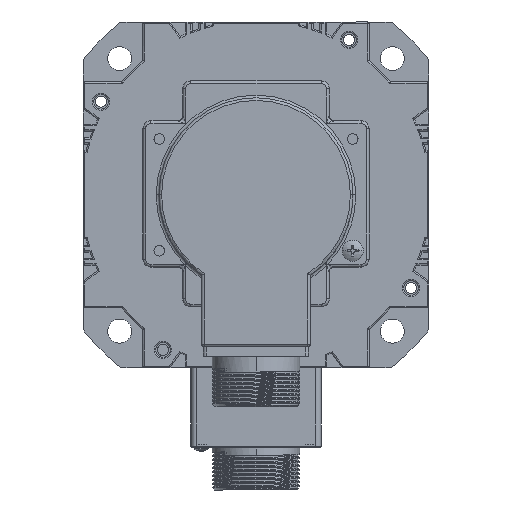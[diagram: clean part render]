
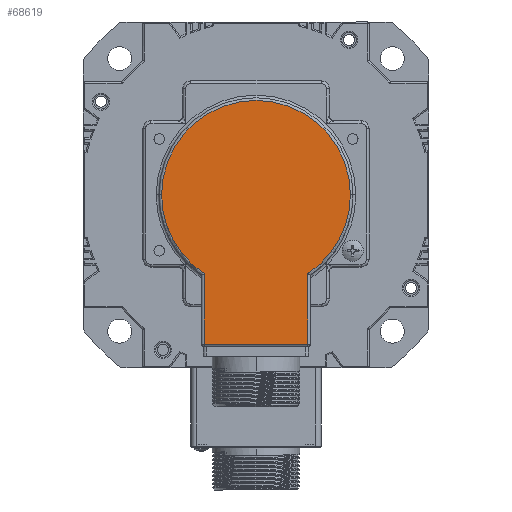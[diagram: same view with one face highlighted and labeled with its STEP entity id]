
A CAD part, front view. The second image highlights one B-rep face of the part: STEP entity #68619.
In plain terms, the highlighted planar face has unit normal (0, -1, 0) as drawn and (0, 0, -1) by its records, which use the part's own axes.
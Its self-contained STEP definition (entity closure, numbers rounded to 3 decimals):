
#389 = CARTESIAN_POINT ( 'NONE',  ( 19.5, 30.199, -33. ) ) ;
#1473 = CARTESIAN_POINT ( 'NONE',  ( 35.5, 0., -33. ) ) ;
#1692 = CARTESIAN_POINT ( 'NONE',  ( 0., 0., -33. ) ) ;
#1915 = DIRECTION ( 'NONE',  ( -1., 0., 0. ) ) ;
#4148 = EDGE_LOOP ( 'NONE', ( #4899, #50964, #50634, #38369, #41298, #21014 ) ) ;
#4297 = VERTEX_POINT ( 'NONE', #29306 ) ;
#4899 = ORIENTED_EDGE ( 'NONE', *, *, #30162, .T. ) ;
#5770 = CARTESIAN_POINT ( 'NONE',  ( -19.5, 29.665, -33. ) ) ;
#8027 = VERTEX_POINT ( 'NONE', #1473 ) ;
#10024 = EDGE_CURVE ( 'NONE', #4297, #29467, #48934, .T. ) ;
#11053 = DIRECTION ( 'NONE',  ( 0., 0., -1. ) ) ;
#12519 = VECTOR ( 'NONE', #63745, 1000. ) ;
#14887 = CARTESIAN_POINT ( 'NONE',  ( 0., 0., -33. ) ) ;
#15670 = CIRCLE ( 'NONE', #57340, 35.5 ) ;
#19574 = CARTESIAN_POINT ( 'NONE',  ( 0., 0., -33. ) ) ;
#19957 = DIRECTION ( 'NONE',  ( -1., 0., 0. ) ) ;
#21014 = ORIENTED_EDGE ( 'NONE', *, *, #10024, .T. ) ;
#23422 = EDGE_CURVE ( 'NONE', #63811, #68096, #66939, .T. ) ;
#23891 = FACE_OUTER_BOUND ( 'NONE', #4148, .T. ) ;
#24317 = EDGE_CURVE ( 'NONE', #8027, #4297, #26823, .T. ) ;
#26823 = CIRCLE ( 'NONE', #69012, 35.5 ) ;
#29208 = VERTEX_POINT ( 'NONE', #29247 ) ;
#29247 = CARTESIAN_POINT ( 'NONE',  ( -19.5, 56.15, -33. ) ) ;
#29306 = CARTESIAN_POINT ( 'NONE',  ( -35.5, 0., -33. ) ) ;
#29467 = VERTEX_POINT ( 'NONE', #5770 ) ;
#30162 = EDGE_CURVE ( 'NONE', #29467, #29208, #67083, .T. ) ;
#31859 = CARTESIAN_POINT ( 'NONE',  ( 20.5, 56.15, -33. ) ) ;
#35138 = CARTESIAN_POINT ( 'NONE',  ( -19.5, 57.15, -33. ) ) ;
#35942 = LINE ( 'NONE', #31859, #12519 ) ;
#37692 = AXIS2_PLACEMENT_3D ( 'NONE', #19574, #11053, #64497 ) ;
#38369 = ORIENTED_EDGE ( 'NONE', *, *, #51044, .T. ) ;
#40047 = EDGE_CURVE ( 'NONE', #29208, #63811, #35942, .T. ) ;
#40856 = PLANE ( 'NONE',  #37692 ) ;
#41298 = ORIENTED_EDGE ( 'NONE', *, *, #24317, .T. ) ;
#42748 = VECTOR ( 'NONE', #43216, 1000. ) ;
#43216 = DIRECTION ( 'NONE',  ( 0., -1., 0. ) ) ;
#44058 = DIRECTION ( 'NONE',  ( 0., 0., -1. ) ) ;
#44475 = DIRECTION ( 'NONE',  ( 0., 1., 0. ) ) ;
#46492 = CARTESIAN_POINT ( 'NONE',  ( 19.5, 29.665, -33. ) ) ;
#48934 = CIRCLE ( 'NONE', #59927, 35.5 ) ;
#50634 = ORIENTED_EDGE ( 'NONE', *, *, #23422, .T. ) ;
#50964 = ORIENTED_EDGE ( 'NONE', *, *, #40047, .T. ) ;
#51044 = EDGE_CURVE ( 'NONE', #68096, #8027, #15670, .T. ) ;
#51940 = DIRECTION ( 'NONE',  ( 0., 0., -1. ) ) ;
#52512 = DIRECTION ( 'NONE',  ( 0., 0., -1. ) ) ;
#56257 = VECTOR ( 'NONE', #44475, 1000. ) ;
#57340 = AXIS2_PLACEMENT_3D ( 'NONE', #14887, #52512, #63200 ) ;
#59927 = AXIS2_PLACEMENT_3D ( 'NONE', #1692, #44058, #1915 ) ;
#63091 = CARTESIAN_POINT ( 'NONE',  ( 0., 0., -33. ) ) ;
#63200 = DIRECTION ( 'NONE',  ( -1., 0., 0. ) ) ;
#63745 = DIRECTION ( 'NONE',  ( 1., 0., 0. ) ) ;
#63811 = VERTEX_POINT ( 'NONE', #66216 ) ;
#64497 = DIRECTION ( 'NONE',  ( -1., 0., 0. ) ) ;
#66216 = CARTESIAN_POINT ( 'NONE',  ( 19.5, 56.15, -33. ) ) ;
#66939 = LINE ( 'NONE', #389, #42748 ) ;
#67083 = LINE ( 'NONE', #35138, #56257 ) ;
#68096 = VERTEX_POINT ( 'NONE', #46492 ) ;
#68619 = ADVANCED_FACE ( 'NONE', ( #23891 ), #40856, .T. ) ;
#69012 = AXIS2_PLACEMENT_3D ( 'NONE', #63091, #51940, #19957 ) ;
